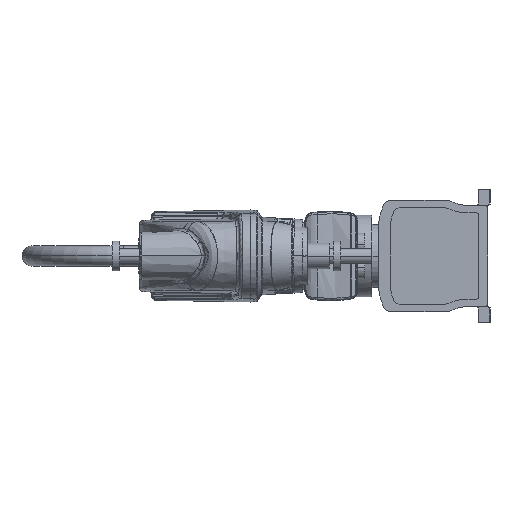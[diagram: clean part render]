
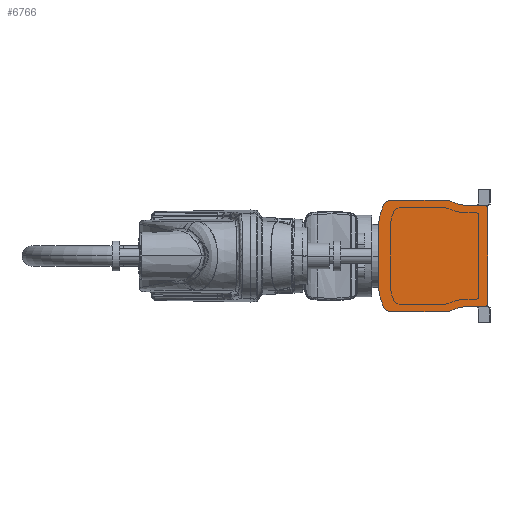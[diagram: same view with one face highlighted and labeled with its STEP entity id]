
A CAD part, left-side view. The second image highlights one B-rep face of the part: STEP entity #6766.
In plain terms, the highlighted planar face has unit normal (-1, 0, 0).
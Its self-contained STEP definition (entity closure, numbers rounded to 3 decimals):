
#616=DIRECTION('',(0.,-1.,0.));
#617=VECTOR('',#616,22.929);
#618=CARTESIAN_POINT('',(-72.,28.929,-68.));
#619=LINE('',#618,#617);
#692=CARTESIAN_POINT('',(-72.,6.,-65.));
#693=DIRECTION('',(1.,0.,0.));
#694=DIRECTION('',(0.,-1.,0.));
#695=AXIS2_PLACEMENT_3D('',#692,#693,#694);
#697=CARTESIAN_POINT('',(-72.,28.929,-118.));
#698=DIRECTION('',(-1.,0.,0.));
#699=DIRECTION('',(0.,0.,1.));
#700=AXIS2_PLACEMENT_3D('',#697,#698,#699);
#702=CARTESIAN_POINT('',(-72.,61.655,-45.));
#703=DIRECTION('',(1.,0.,0.));
#704=DIRECTION('',(0.,-0.409,-0.912));
#705=AXIS2_PLACEMENT_3D('',#702,#703,#704);
#707=CARTESIAN_POINT('',(-72.,133.943,-65.));
#708=DIRECTION('',(1.,0.,0.));
#709=DIRECTION('',(0.,0.,-1.));
#710=AXIS2_PLACEMENT_3D('',#707,#708,#709);
#712=CARTESIAN_POINT('',(-72.,70.602,-35.201));
#713=DIRECTION('',(1.,0.,0.));
#714=DIRECTION('',(0.,0.905,-0.426));
#715=AXIS2_PLACEMENT_3D('',#712,#713,#714);
#717=CARTESIAN_POINT('',(-72.,140.,-44.365));
#718=DIRECTION('',(1.,0.,0.));
#719=DIRECTION('',(0.,0.991,-0.131));
#720=AXIS2_PLACEMENT_3D('',#717,#718,#719);
#722=CARTESIAN_POINT('',(-72.,140.,44.365));
#723=DIRECTION('',(1.,0.,0.));
#724=DIRECTION('',(0.,1.,0.));
#725=AXIS2_PLACEMENT_3D('',#722,#723,#724);
#727=CARTESIAN_POINT('',(-72.,70.602,35.201));
#728=DIRECTION('',(1.,0.,0.));
#729=DIRECTION('',(0.,0.991,0.131));
#730=AXIS2_PLACEMENT_3D('',#727,#728,#729);
#732=CARTESIAN_POINT('',(-72.,133.943,65.));
#733=DIRECTION('',(1.,0.,0.));
#734=DIRECTION('',(0.,0.905,0.426));
#735=AXIS2_PLACEMENT_3D('',#732,#733,#734);
#737=CARTESIAN_POINT('',(-72.,61.655,45.));
#738=DIRECTION('',(1.,0.,0.));
#739=DIRECTION('',(0.,0.,1.));
#740=AXIS2_PLACEMENT_3D('',#737,#738,#739);
#742=CARTESIAN_POINT('',(-72.,28.929,118.));
#743=DIRECTION('',(-1.,0.,0.));
#744=DIRECTION('',(0.,0.409,-0.913));
#745=AXIS2_PLACEMENT_3D('',#742,#743,#744);
#747=CARTESIAN_POINT('',(-72.,6.,65.));
#748=DIRECTION('',(1.,0.,0.));
#749=DIRECTION('',(0.,0.,1.));
#750=AXIS2_PLACEMENT_3D('',#747,#748,#749);
#784=DIRECTION('',(0.,-1.,0.));
#785=VECTOR('',#784,72.287);
#786=CARTESIAN_POINT('',(-72.,133.943,-75.));
#787=LINE('',#786,#785);
#830=DIRECTION('',(0.,0.,-1.));
#831=VECTOR('',#830,88.729);
#832=CARTESIAN_POINT('',(-72.,150.,44.365));
#833=LINE('',#832,#831);
#972=DIRECTION('',(0.,1.,0.));
#973=VECTOR('',#972,72.287);
#974=CARTESIAN_POINT('',(-72.,61.655,75.));
#975=LINE('',#974,#973);
#1008=DIRECTION('',(0.,1.,0.));
#1009=VECTOR('',#1008,22.929);
#1010=CARTESIAN_POINT('',(-72.,6.,68.));
#1011=LINE('',#1010,#1009);
#1028=DIRECTION('',(0.,0.,1.));
#1029=VECTOR('',#1028,130.);
#1030=CARTESIAN_POINT('',(-72.,3.,-65.));
#1031=LINE('',#1030,#1029);
#4776=CARTESIAN_POINT('',(-72.,3.,-65.));
#4777=CARTESIAN_POINT('',(-72.,6.,-68.));
#4778=VERTEX_POINT('',#4776);
#4779=VERTEX_POINT('',#4777);
#4780=CARTESIAN_POINT('',(-72.,28.929,-68.));
#4781=VERTEX_POINT('',#4780);
#4782=CARTESIAN_POINT('',(-72.,49.383,-72.375));
#4783=VERTEX_POINT('',#4782);
#4784=CARTESIAN_POINT('',(-72.,61.655,-75.));
#4785=VERTEX_POINT('',#4784);
#4786=CARTESIAN_POINT('',(-72.,133.943,-75.));
#4787=VERTEX_POINT('',#4786);
#4788=CARTESIAN_POINT('',(-72.,142.991,-69.257));
#4789=VERTEX_POINT('',#4788);
#4790=CARTESIAN_POINT('',(-72.,149.914,-45.674));
#4791=VERTEX_POINT('',#4790);
#4792=CARTESIAN_POINT('',(-72.,150.,-44.365));
#4793=VERTEX_POINT('',#4792);
#4794=CARTESIAN_POINT('',(-72.,150.,44.365));
#4795=VERTEX_POINT('',#4794);
#4796=CARTESIAN_POINT('',(-72.,149.914,45.674));
#4797=VERTEX_POINT('',#4796);
#4798=CARTESIAN_POINT('',(-72.,142.991,69.257));
#4799=VERTEX_POINT('',#4798);
#4800=CARTESIAN_POINT('',(-72.,133.943,75.));
#4801=VERTEX_POINT('',#4800);
#4802=CARTESIAN_POINT('',(-72.,61.655,75.));
#4803=VERTEX_POINT('',#4802);
#4804=CARTESIAN_POINT('',(-72.,49.383,72.375));
#4805=VERTEX_POINT('',#4804);
#4806=CARTESIAN_POINT('',(-72.,28.929,68.));
#4807=VERTEX_POINT('',#4806);
#4808=CARTESIAN_POINT('',(-72.,6.,68.));
#4809=VERTEX_POINT('',#4808);
#4810=CARTESIAN_POINT('',(-72.,3.,65.));
#4811=VERTEX_POINT('',#4810);
#6725=CARTESIAN_POINT('',(-72.,76.5,0.));
#6726=DIRECTION('',(1.,0.,0.));
#6727=DIRECTION('',(0.,-1.,0.));
#6728=AXIS2_PLACEMENT_3D('',#6725,#6726,#6727);
#6729=PLANE('',#6728);
#6730=ORIENTED_EDGE('',*,*,#6711,.T.);
#6731=ORIENTED_EDGE('',*,*,#6603,.F.);
#6733=ORIENTED_EDGE('',*,*,#6732,.T.);
#6735=ORIENTED_EDGE('',*,*,#6734,.T.);
#6737=ORIENTED_EDGE('',*,*,#6736,.F.);
#6739=ORIENTED_EDGE('',*,*,#6738,.T.);
#6741=ORIENTED_EDGE('',*,*,#6740,.T.);
#6743=ORIENTED_EDGE('',*,*,#6742,.T.);
#6745=ORIENTED_EDGE('',*,*,#6744,.F.);
#6747=ORIENTED_EDGE('',*,*,#6746,.T.);
#6749=ORIENTED_EDGE('',*,*,#6748,.T.);
#6751=ORIENTED_EDGE('',*,*,#6750,.T.);
#6753=ORIENTED_EDGE('',*,*,#6752,.F.);
#6755=ORIENTED_EDGE('',*,*,#6754,.T.);
#6757=ORIENTED_EDGE('',*,*,#6756,.T.);
#6759=ORIENTED_EDGE('',*,*,#6758,.F.);
#6761=ORIENTED_EDGE('',*,*,#6760,.T.);
#6763=ORIENTED_EDGE('',*,*,#6762,.F.);
#6764=EDGE_LOOP('',(#6730,#6731,#6733,#6735,#6737,#6739,#6741,#6743,#6745,#6747,
#6749,#6751,#6753,#6755,#6757,#6759,#6761,#6763));
#6765=FACE_OUTER_BOUND('',#6764,.F.);
#696=CIRCLE('',#695,3.);
#701=CIRCLE('',#700,50.);
#706=CIRCLE('',#705,30.);
#711=CIRCLE('',#710,10.);
#716=CIRCLE('',#715,80.);
#721=CIRCLE('',#720,10.);
#726=CIRCLE('',#725,10.);
#731=CIRCLE('',#730,80.);
#736=CIRCLE('',#735,10.);
#741=CIRCLE('',#740,30.);
#746=CIRCLE('',#745,50.);
#751=CIRCLE('',#750,3.);
#6603=EDGE_CURVE('',#4781,#4779,#619,.T.);
#6711=EDGE_CURVE('',#4778,#4779,#696,.T.);
#6732=EDGE_CURVE('',#4781,#4783,#701,.T.);
#6734=EDGE_CURVE('',#4783,#4785,#706,.T.);
#6736=EDGE_CURVE('',#4787,#4785,#787,.T.);
#6738=EDGE_CURVE('',#4787,#4789,#711,.T.);
#6740=EDGE_CURVE('',#4789,#4791,#716,.T.);
#6742=EDGE_CURVE('',#4791,#4793,#721,.T.);
#6744=EDGE_CURVE('',#4795,#4793,#833,.T.);
#6746=EDGE_CURVE('',#4795,#4797,#726,.T.);
#6748=EDGE_CURVE('',#4797,#4799,#731,.T.);
#6750=EDGE_CURVE('',#4799,#4801,#736,.T.);
#6752=EDGE_CURVE('',#4803,#4801,#975,.T.);
#6754=EDGE_CURVE('',#4803,#4805,#741,.T.);
#6756=EDGE_CURVE('',#4805,#4807,#746,.T.);
#6758=EDGE_CURVE('',#4809,#4807,#1011,.T.);
#6760=EDGE_CURVE('',#4809,#4811,#751,.T.);
#6762=EDGE_CURVE('',#4778,#4811,#1031,.T.);
#6766=ADVANCED_FACE('',(#6765),#6729,.F.);
